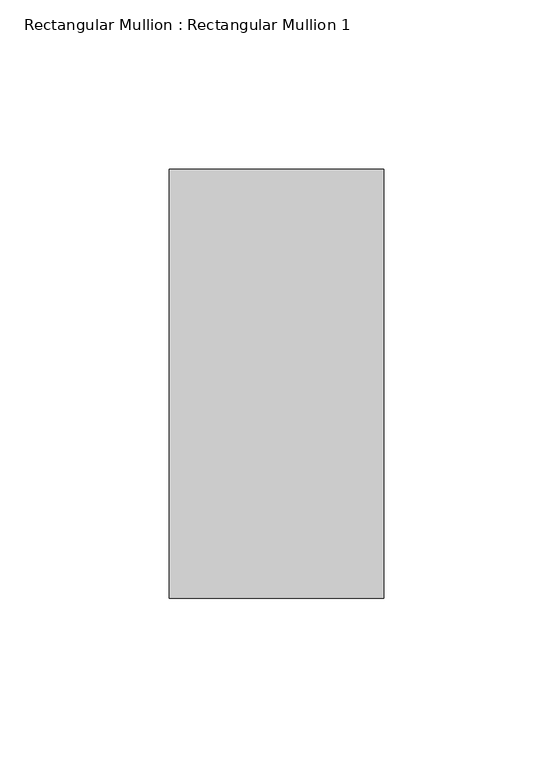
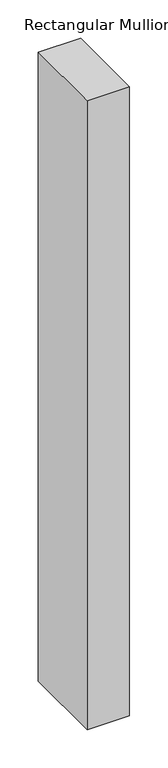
"""IFC4 building model written with IfcOpenShell, lengths in millimetres: member geometry, Rectangular Mullion : Rectangular Mullion 1."""

import ifcopenshell
import ifcopenshell.guid

model = None  # the IFC model being written
_history = None  # IfcOwnerHistory: only IFC2X3 demands one
_inside = {}  # id of a spatial element -> (the spatial element, [elements in it])
_under = {}  # id of a project, library or spatial element -> (it, [spatial elements below it])
_declared = {}  # id of a project -> (the project, [libraries it declares])
_typed = {}  # id of a type object -> (the type object, [elements of that type])
_made_of = {}  # id of a material, layer set ... -> (it, [elements and type objects made of it])


def new_model(schema):
    """Start an empty IFC model of exactly this schema.

    Asked for "IFC4X3", IfcOpenShell would pick the latest addendum, in which some entities
    have other attributes; the version numbers below select the first issue.
    IFC2X3 requires an IfcOwnerHistory on every rooted entity: one is made here for all.
    """
    global model, _history
    if schema == "IFC4X3":
        model = ifcopenshell.file(schema_version=(4, 3, 0, 0))
    else:
        model = ifcopenshell.file(schema=schema)
    _inside.clear()
    _under.clear()
    _declared.clear()
    _typed.clear()
    _made_of.clear()
    _history = None
    if model.schema == "IFC2X3":
        org = make("IfcOrganization", Name="unknown")
        user = make(
            "IfcPersonAndOrganization",
            ThePerson=make("IfcPerson", FamilyName="unknown"),
            TheOrganization=org,
        )
        app = make(
            "IfcApplication",
            ApplicationDeveloper=org,
            Version="unknown",
            ApplicationFullName="unknown",
            ApplicationIdentifier="unknown",
        )
        _history = make(
            "IfcOwnerHistory",
            OwningUser=user,
            OwningApplication=app,
            ChangeAction="ADDED",
            CreationDate=0,
        )
    return model


def make(cls, **values):
    """One entity of the class cls with the attributes given. An attribute that is None is left unset."""
    return model.create_entity(
        cls, **{name: value for name, value in values.items() if value is not None}
    )


def rooted(cls, **values):
    """An entity with a GlobalId (a new one), such as an element, a storey or a relation."""
    return make(cls, GlobalId=ifcopenshell.guid.new(), OwnerHistory=_history, **values)


def si_unit(unit_type, name, prefix=None):
    """IfcSIUnit, for example si_unit("LENGTHUNIT", "METRE", prefix="MILLI")."""
    return make("IfcSIUnit", UnitType=unit_type, Prefix=prefix, Name=name)


def assignment(units):
    """IfcUnitAssignment: the units of a project."""
    return None if units is None else make("IfcUnitAssignment", Units=units)


def point(xyz):
    """IfcCartesianPoint."""
    return None if xyz is None else make("IfcCartesianPoint", Coordinates=xyz)


def direction(xyz):
    """IfcDirection."""
    return None if xyz is None else make("IfcDirection", DirectionRatios=xyz)


def frame(location, z_axis=None, x_axis=None):
    """IfcAxis2Placement3D, a coordinate frame: its origin and axes. An axis left out is left unset."""
    return make(
        "IfcAxis2Placement3D",
        Location=point(location),
        Axis=direction(z_axis),
        RefDirection=direction(x_axis),
    )


def origin():
    """The frame at (0, 0, 0) with its axes left unset."""
    return frame((0.0, 0.0, 0.0))


def place(relative_to, where):
    """IfcLocalPlacement: puts the frame where relative to a parent placement (None: the world)."""
    return make(
        "IfcLocalPlacement", PlacementRelTo=relative_to, RelativePlacement=where
    )


def context(
    kind, dimensions, precision=None, world=None, true_north=None, identifier=None
):
    """IfcGeometricRepresentationContext, for example the 3D "Model" context."""
    return make(
        "IfcGeometricRepresentationContext",
        ContextIdentifier=identifier,
        ContextType=kind,
        CoordinateSpaceDimension=dimensions,
        Precision=precision,
        WorldCoordinateSystem=world,
        TrueNorth=true_north,
    )


def project(units=None, contexts=None):
    """IfcProject with its units and contexts."""
    return rooted(
        "IfcProject",
        Name="project",
        RepresentationContexts=contexts,
        UnitsInContext=assignment(units),
    )


def spatial(cls, under=None, at=None, **own):
    """A site, building, storey or space (cls), placed at a placement, below another one or the project."""
    s = rooted(cls, ObjectPlacement=at, **own)
    if under is not None:
        _under.setdefault(under.id(), (under, []))[1].append(s)
    return s


def polyline(points):
    """IfcPolyline through the points."""
    return make("IfcPolyline", Points=[point(p) for p in points])


def outline(outer, holes=None, kind="AREA"):
    """IfcArbitraryClosedProfileDef: a profile drawn as a closed curve; with holes, ...WithVoids."""
    if holes is None:
        return make("IfcArbitraryClosedProfileDef", ProfileType=kind, OuterCurve=outer)
    return make(
        "IfcArbitraryProfileDefWithVoids",
        ProfileType=kind,
        OuterCurve=outer,
        InnerCurves=holes,
    )


def extrude(swept, where, along, depth):
    """IfcExtrudedAreaSolid: the profile swept, set in the frame where, extruded along a direction by depth."""
    return make(
        "IfcExtrudedAreaSolid",
        SweptArea=swept,
        Position=where,
        ExtrudedDirection=direction(along),
        Depth=depth,
    )


def shape(context_of_items, identifier, shape_type, items):
    """IfcShapeRepresentation: the items that make up one representation, for example the "Body"."""
    return make(
        "IfcShapeRepresentation",
        ContextOfItems=context_of_items,
        RepresentationIdentifier=identifier,
        RepresentationType=shape_type,
        Items=items,
    )


def source(mapping_origin, context_of_items, identifier, shape_type, items):
    """IfcRepresentationMap: a shape defined once, which mapped items show again and again."""
    return make(
        "IfcRepresentationMap",
        MappingOrigin=mapping_origin,
        MappedRepresentation=shape(context_of_items, identifier, shape_type, items),
    )


def transform(
    local_origin,
    x_axis=None,
    y_axis=None,
    z_axis=None,
    scale=None,
    scale2=None,
    scale3=None,
    uniform=True,
):
    """IfcCartesianTransformationOperator3D, or its non-uniform kind. x_axis, y_axis, z_axis: its Axis1, 2, 3."""
    if uniform:
        return make(
            "IfcCartesianTransformationOperator3D",
            Axis1=direction(x_axis),
            Axis2=direction(y_axis),
            LocalOrigin=point(local_origin),
            Scale=scale,
            Axis3=direction(z_axis),
        )
    return make(
        "IfcCartesianTransformationOperator3DnonUniform",
        Axis1=direction(x_axis),
        Axis2=direction(y_axis),
        LocalOrigin=point(local_origin),
        Scale=scale,
        Axis3=direction(z_axis),
        Scale2=scale2,
        Scale3=scale3,
    )


def mapped(mapping_source, mapping_target):
    """IfcMappedItem: shows the shape of a source again, moved by a transform."""
    return make(
        "IfcMappedItem", MappingSource=mapping_source, MappingTarget=mapping_target
    )


def made_of(thing, what):
    """Note that an element or type object is made of a material, layer set ...; save() writes the relation."""
    if what is not None:
        _made_of.setdefault(what.id(), (what, []))[1].append(thing)
    return thing


def element(
    cls,
    number,
    at=None,
    inside=None,
    cuts=None,
    type_object=None,
    material=None,
    context=None,
    identifier="Body",
    shape_type=None,
    held_by="IfcProductDefinitionShape",
    body=None,
    shapes=None,
    **own,
):
    """One element of the class cls, such as IfcWall. Its Tag is "e" and its number.

    at: its placement. inside: the storey or other place that contains it. cuts: it is an
    opening in that element (IfcRelVoidsElement). A single representation is given by context,
    identifier, shape_type and body (its items); several are given by shapes. held_by: the class
    of the entity that holds the representations. save() writes the other relations.
    """
    e = rooted(cls, Tag="e%d" % number, ObjectPlacement=at, **own)
    if body is not None:
        shapes = [shape(context, identifier, shape_type, body)]
    if shapes is not None:
        e.Representation = make(held_by, Representations=shapes)
    if inside is not None:
        _inside.setdefault(inside.id(), (inside, []))[1].append(e)
    if cuts is not None:
        rooted(
            "IfcRelVoidsElement", RelatingBuildingElement=cuts, RelatedOpeningElement=e
        )
    if type_object is not None:
        _typed.setdefault(type_object.id(), (type_object, []))[1].append(e)
    return made_of(e, material)


def aggregate(whole, parts):
    """IfcRelAggregates: a whole, such as a stair, and the parts it consists of."""
    return rooted("IfcRelAggregates", RelatingObject=whole, RelatedObjects=parts)


def save(model, path):
    """Write the relations noted so far, then the file.

    IfcRelAggregates (storeys below a building ...), IfcRelContainedInSpatialStructure (elements
    in a storey), IfcRelDefinesByType, IfcRelAssociatesMaterial and IfcRelDeclares: one each for
    every whole, place, type object, material and project.
    """
    for whole, parts in _under.values():
        aggregate(whole, parts)
    for where, things in _inside.values():
        rooted(
            "IfcRelContainedInSpatialStructure",
            RelatedElements=things,
            RelatingStructure=where,
        )
    for kind, things in _typed.values():
        rooted("IfcRelDefinesByType", RelatedObjects=things, RelatingType=kind)
    for what, things in _made_of.values():
        rooted("IfcRelAssociatesMaterial", RelatedObjects=things, RelatingMaterial=what)
    for by, libraries in _declared.values():
        rooted("IfcRelDeclares", RelatingContext=by, RelatedDefinitions=libraries)
    model.write(path)


def rectangular_mullion_rectangular_mullion_1_10727e02(model_context):
    return source(origin(), model_context, "Body", "SweptSolid", [
        extrude(outline(polyline([(0.0, 63.5), (0.0, -63.5), (-63.5, -63.5), (-63.5, 63.5), (0.0, 63.5)])), frame((0.0, 0.0, -999.9583536), z_axis=(0.0, 0.0, 1.0), x_axis=(1.0, 0.0, 0.0)), (0.0, 0.0, 1.0), 999.9583536),
    ])


if __name__ == "__main__":
    model = new_model("IFC4")
    model_context = context("Model", 3, world=origin())
    ifc_project = project(units=[si_unit("LENGTHUNIT", "METRE", prefix="MILLI")], contexts=[model_context])
    site = spatial("IfcSite", under=ifc_project)
    building = spatial("IfcBuilding", under=site)
    placement = place(None, origin())
    rectangular_mullion_rectangular_mullion_1_shape = rectangular_mullion_rectangular_mullion_1_10727e02(model_context)
    element("IfcMember", 1, ObjectType="Rectangular Mullion : Rectangular Mullion 1", at=placement, inside=building, context=model_context, shape_type="MappedRepresentation", body=[
        mapped(rectangular_mullion_rectangular_mullion_1_shape, transform((0.0, 0.0, 0.0), x_axis=(1.0, 0.0, 0.0), y_axis=(0.0, 1.0, 0.0), z_axis=(0.0, 0.0, 1.0))),
    ])
    save(model, "model.ifc")
